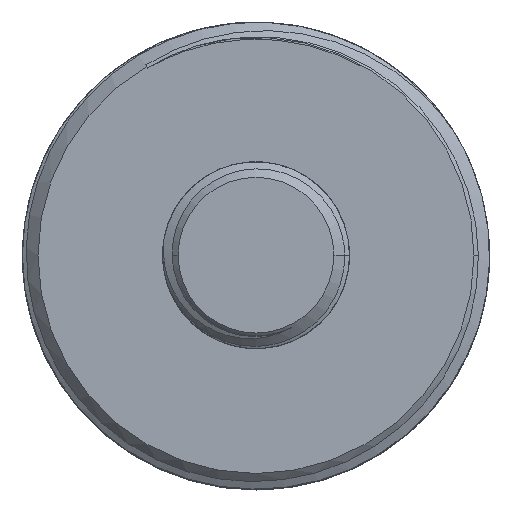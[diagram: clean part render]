
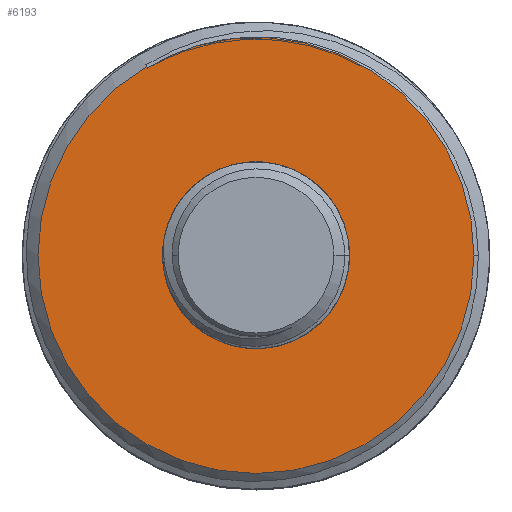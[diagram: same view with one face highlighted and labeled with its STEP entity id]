
A CAD part, top view. The second image highlights one B-rep face of the part: STEP entity #6193.
In plain terms, the highlighted planar face has unit normal (0, 0, 1).
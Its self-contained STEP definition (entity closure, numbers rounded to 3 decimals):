
#913=CARTESIAN_POINT('',(0.,0.,-13.));
#914=DIRECTION('',(0.,0.,1.));
#915=DIRECTION('',(-1.,0.,0.));
#916=AXIS2_PLACEMENT_3D('',#913,#914,#915);
#918=CARTESIAN_POINT('',(0.,0.,-13.));
#919=DIRECTION('',(0.,0.,1.));
#920=DIRECTION('',(1.,0.,0.));
#921=AXIS2_PLACEMENT_3D('',#918,#919,#920);
#923=DIRECTION('',(0.5,-0.866,0.));
#924=VECTOR('',#923,0.1);
#925=CARTESIAN_POINT('',(-7.,12.124,-13.));
#926=LINE('',#925,#924);
#927=CARTESIAN_POINT('',(-3.892,13.448,-13.));
#928=CARTESIAN_POINT('',(-4.251,13.333,-13.));
#929=CARTESIAN_POINT('',(-4.956,13.074,-13.));
#930=CARTESIAN_POINT('',(-5.982,12.6,-13.));
#931=CARTESIAN_POINT('',(-6.632,12.234,-13.));
#932=CARTESIAN_POINT('',(-6.95,12.038,-13.));
#934=CARTESIAN_POINT('',(0.,0.,-13.));
#935=DIRECTION('',(0.,0.,1.));
#936=DIRECTION('',(1.,0.,0.));
#937=AXIS2_PLACEMENT_3D('',#934,#935,#936);
#995=CARTESIAN_POINT('',(0.,0.,-13.));
#996=DIRECTION('',(0.,0.,1.));
#997=DIRECTION('',(-0.5,0.866,0.));
#998=AXIS2_PLACEMENT_3D('',#995,#996,#997);
#5000=CARTESIAN_POINT('',(5.,0.,-13.));
#5001=VERTEX_POINT('',#5000);
#5002=CARTESIAN_POINT('',(-5.,0.,-13.));
#5003=VERTEX_POINT('',#5002);
#5041=CARTESIAN_POINT('',(-7.,12.124,-13.));
#5042=CARTESIAN_POINT('',(-6.95,12.038,-13.));
#5043=VERTEX_POINT('',#5041);
#5044=VERTEX_POINT('',#5042);
#5045=VERTEX_POINT('',#927);
#5164=CARTESIAN_POINT('',(14.,0.,
-13.));
#5166=VERTEX_POINT('',#5164);
#6174=CARTESIAN_POINT('',(0.,0.,-13.));
#6175=DIRECTION('',(0.,0.,1.));
#6176=DIRECTION('',(-1.,0.,0.));
#6177=AXIS2_PLACEMENT_3D('',#6174,#6175,#6176);
#6178=PLANE('',#6177);
#6180=ORIENTED_EDGE('',*,*,#6179,.T.);
#6182=ORIENTED_EDGE('',*,*,#6181,.F.);
#6184=ORIENTED_EDGE('',*,*,#6183,.F.);
#6186=ORIENTED_EDGE('',*,*,#6185,.F.);
#6187=EDGE_LOOP('',(#6180,#6182,#6184,#6186));
#6188=FACE_OUTER_BOUND('',#6187,.F.);
#6189=ORIENTED_EDGE('',*,*,#6051,.T.);
#6190=ORIENTED_EDGE('',*,*,#6121,.T.);
#6191=EDGE_LOOP('',(#6189,#6190));
#6192=FACE_BOUND('',#6191,.F.);
#917=CIRCLE('',#916,5.);
#922=CIRCLE('',#921,5.);
#933=B_SPLINE_CURVE_WITH_KNOTS('',3,(#927,#928,#929,#930,#931,#932),
.UNSPECIFIED.,.F.,.F.,(4,1,1,4),(0.,0.333,0.667,1.),
.UNSPECIFIED.);
#938=CIRCLE('',#937,14.);
#999=CIRCLE('',#998,14.);
#6051=EDGE_CURVE('',#5003,#5001,#917,.T.);
#6121=EDGE_CURVE('',#5001,#5003,#922,.T.);
#6179=EDGE_CURVE('',#5043,#5044,#926,.T.);
#6181=EDGE_CURVE('',#5045,#5044,#933,.T.);
#6183=EDGE_CURVE('',#5166,#5045,#938,.T.);
#6185=EDGE_CURVE('',#5043,#5166,#999,.T.);
#6193=ADVANCED_FACE('',(#6188,#6192),#6178,.T.);
